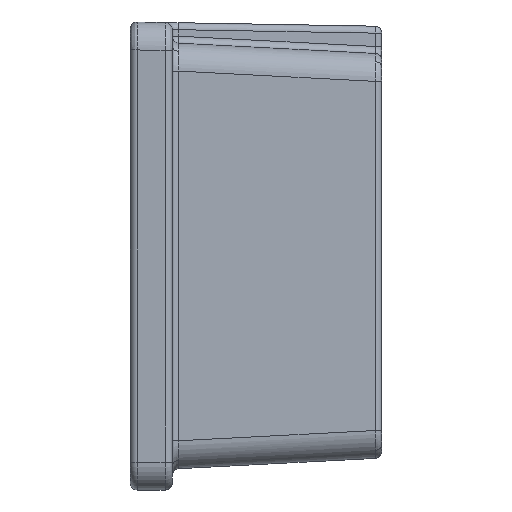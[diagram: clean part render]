
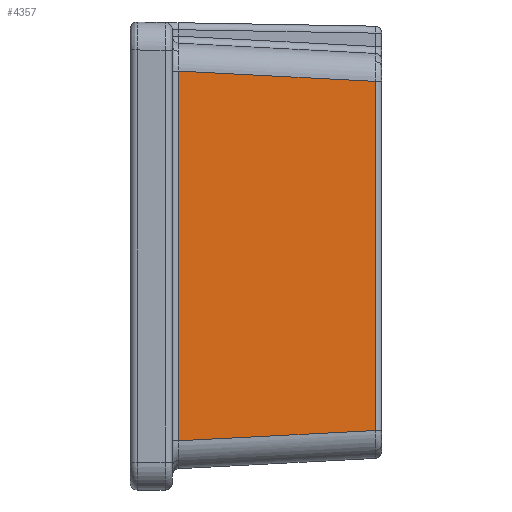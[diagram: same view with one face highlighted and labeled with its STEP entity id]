
A CAD part, left-side view. The second image highlights one B-rep face of the part: STEP entity #4357.
In plain terms, the highlighted planar face has unit normal (-0.999, -0.052, 0).
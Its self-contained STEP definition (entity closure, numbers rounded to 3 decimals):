
#17 = DIRECTION ( 'NONE',  ( 0., 0., 1. ) ) ;
#155 = AXIS2_PLACEMENT_3D ( 'NONE', #4474, #331, #5047 ) ;
#197 = VERTEX_POINT ( 'NONE', #5295 ) ;
#286 = DIRECTION ( 'NONE',  ( -0.052, 0.997, 0.052 ) ) ;
#331 = DIRECTION ( 'NONE',  ( -0.999, -0.052, 0. ) ) ;
#391 = VERTEX_POINT ( 'NONE', #5942 ) ;
#399 = LINE ( 'NONE', #5737, #3806 ) ;
#612 = CARTESIAN_POINT ( 'NONE',  ( -377.387, -175.262, 124.666 ) ) ;
#646 = VERTEX_POINT ( 'NONE', #5966 ) ;
#1192 = ORIENTED_EDGE ( 'NONE', *, *, #6630, .T. ) ;
#1469 = EDGE_LOOP ( 'NONE', ( #1192, #6829, #2047, #2807 ) ) ;
#1569 = DIRECTION ( 'NONE',  ( 0.052, -0.997, 0.052 ) ) ;
#1824 = LINE ( 'NONE', #7157, #6235 ) ;
#2047 = ORIENTED_EDGE ( 'NONE', *, *, #2192, .T. ) ;
#2192 = EDGE_CURVE ( 'NONE', #391, #197, #399, .T. ) ;
#2584 = PLANE ( 'NONE',  #155 ) ;
#2807 = ORIENTED_EDGE ( 'NONE', *, *, #7614, .T. ) ;
#3806 = VECTOR ( 'NONE', #286, 1000. ) ;
#3809 = CARTESIAN_POINT ( 'NONE',  ( -377.387, -175.262, -124.915 ) ) ;
#4023 = EDGE_CURVE ( 'NONE', #4401, #391, #5326, .T. ) ;
#4173 = DIRECTION ( 'NONE',  ( 0., 0., -1. ) ) ;
#4357 = ADVANCED_FACE ( 'NONE', ( #6251 ), #2584, .T. ) ;
#4401 = VERTEX_POINT ( 'NONE', #3809 ) ;
#4474 = CARTESIAN_POINT ( 'NONE',  ( -385., -30., -152.5 ) ) ;
#4564 = VECTOR ( 'NONE', #17, 1000. ) ;
#5047 = DIRECTION ( 'NONE',  ( 0.052, -0.999, 0. ) ) ;
#5295 = CARTESIAN_POINT ( 'NONE',  ( -384.752, -34.738, 132.279 ) ) ;
#5326 = LINE ( 'NONE', #612, #4564 ) ;
#5737 = CARTESIAN_POINT ( 'NONE',  ( -384.221, -44.856, 131.749 ) ) ;
#5761 = CARTESIAN_POINT ( 'NONE',  ( -385.055, -28.959, -132.582 ) ) ;
#5799 = LINE ( 'NONE', #5761, #6981 ) ;
#5942 = CARTESIAN_POINT ( 'NONE',  ( -377.387, -175.262, 124.915 ) ) ;
#5966 = CARTESIAN_POINT ( 'NONE',  ( -384.752, -34.738, -132.279 ) ) ;
#6235 = VECTOR ( 'NONE', #4173, 1000. ) ;
#6251 = FACE_OUTER_BOUND ( 'NONE', #1469, .T. ) ;
#6630 = EDGE_CURVE ( 'NONE', #646, #4401, #5799, .T. ) ;
#6829 = ORIENTED_EDGE ( 'NONE', *, *, #4023, .T. ) ;
#6981 = VECTOR ( 'NONE', #1569, 1000. ) ;
#7157 = CARTESIAN_POINT ( 'NONE',  ( -384.752, -34.738, -152.5 ) ) ;
#7614 = EDGE_CURVE ( 'NONE', #197, #646, #1824, .T. ) ;
